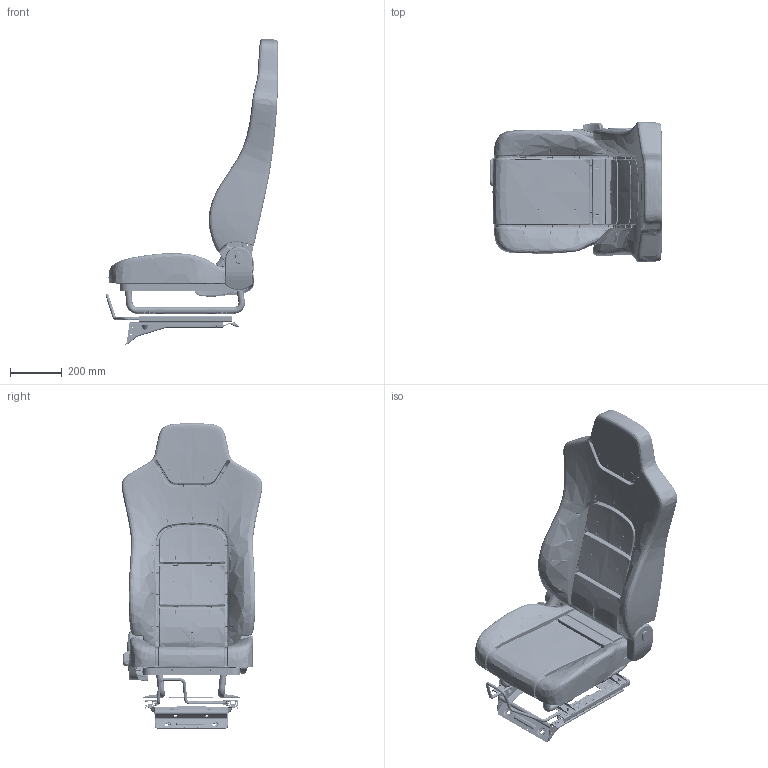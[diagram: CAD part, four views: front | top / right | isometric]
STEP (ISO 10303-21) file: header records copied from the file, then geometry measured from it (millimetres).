
FILE_DESCRIPTION(('CATIA V5 STEP Exchange','CAx-IF Rec.Pracs.--- Model Styling and Organization---1.4--- 2014-01-23'),'2;1');
FILE_NAME('C:\Users\luhaitao\Desktop\M4中卡匹配2.0平台\3D-2.0\副驾座椅\0002.stp','2024-04-25T02:57:32+00:00',('none'),('none'),'CATIA Version 5-6 Release 2017','CATIA V5 STEP AP214','none');
FILE_SCHEMA(('AUTOMOTIVE_DESIGN { 1 0 10303 214 1 1 1 1 }'));
Products named in the file (16): 0002; 00001; 002; DY P2490-6905500; GRC101-00.012; M4-6801101; M4-6801102; M4-6905101; M4-6906001; M6906003; SHT0012305; SHT0012935; SHT0012981; SQDZ6802300; XXXmiantao; M4-6906002-R
Assembly tree (15 placements, depth 2):
  0002
    00001
    002
    DY P2490-6905500
    GRC101-00.012
    M4-6801101
    M4-6801102
    M4-6905101
    M4-6906001
    M6906003
    SHT0012305
    SHT0012935
    SHT0012981
    SQDZ6802300
    XXXmiantao
    M4-6906002-R
Bounding box: 667.16 x 544.05 x 1181.59 mm (x, y, z)
Volume: 40849727.2 mm3; surface area: 4969795.7 mm2
Topology: 95 solids, 1256 shells, 12565 faces, 37867 edges, 25937 vertices
Faces by surface type: bspline 4051, cylinder 3840, plane 2988, sphere 725, torus 614, revolution 139, cone 126, extrusion 82
Entity records: 848374 total; most frequent: CARTESIAN_POINT 562932, ORIENTED_EDGE 67562, EDGE_CURVE 37128, DIRECTION 33085, VERTEX_POINT 25926, B_SPLINE_CURVE_WITH_KNOTS 19071, EDGE_LOOP 13069, AXIS2_PLACEMENT_3D 12777
